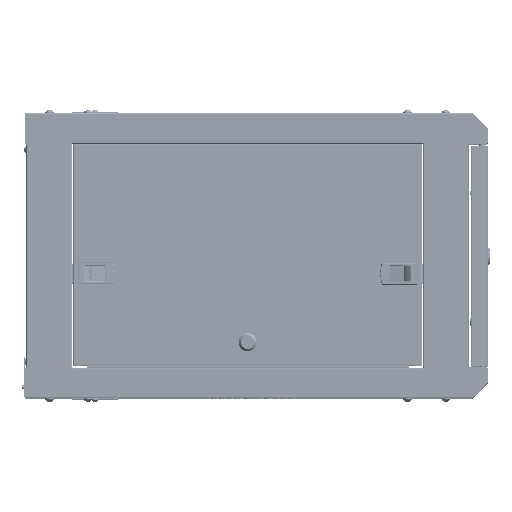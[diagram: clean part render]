
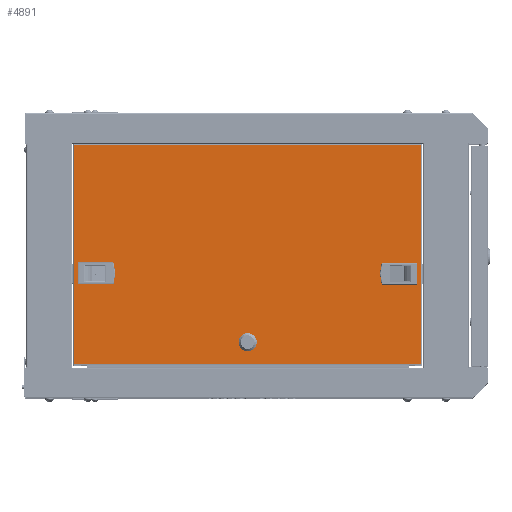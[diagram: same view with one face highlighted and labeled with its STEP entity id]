
A CAD part, top view. The second image highlights one B-rep face of the part: STEP entity #4891.
In plain terms, the highlighted planar face has unit normal (0, 0, 1) as drawn and (0, -1, 0) by its records, which use the part's own axes.
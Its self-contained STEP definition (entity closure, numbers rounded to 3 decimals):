
#4891 = ADVANCED_FACE( 'NONE', ( #12344, #12345, #12346, #12347 ), #12348, .T. );
#12344 = FACE_OUTER_BOUND( '', #26909, .T. );
#12345 = FACE_BOUND( '', #26910, .T. );
#12346 = FACE_BOUND( '', #26911, .T. );
#12347 = FACE_BOUND( '', #26912, .T. );
#12348 = PLANE( '', #26913 );
#26909 = EDGE_LOOP( '', ( #53896, #53897, #53898, #53899 ) );
#26910 = EDGE_LOOP( '', ( #53900, #53901, #53902, #53903 ) );
#26911 = EDGE_LOOP( '', ( #53904, #53905, #53906, #53907 ) );
#26912 = EDGE_LOOP( '', ( #53908, #53909, #53910, #53911 ) );
#26913 = AXIS2_PLACEMENT_3D( '', #53912, #53913, #53914 );
#53896 = ORIENTED_EDGE( '', *, *, #68290, .F. );
#53897 = ORIENTED_EDGE( '', *, *, #68152, .T. );
#53898 = ORIENTED_EDGE( '', *, *, #68208, .T. );
#53899 = ORIENTED_EDGE( '', *, *, #68348, .T. );
#53900 = ORIENTED_EDGE( '', *, *, #68349, .F. );
#53901 = ORIENTED_EDGE( '', *, *, #68182, .F. );
#53902 = ORIENTED_EDGE( '', *, *, #68350, .F. );
#53903 = ORIENTED_EDGE( '', *, *, #68351, .F. );
#53904 = ORIENTED_EDGE( '', *, *, #68299, .F. );
#53905 = ORIENTED_EDGE( '', *, *, #68352, .F. );
#53906 = ORIENTED_EDGE( '', *, *, #68270, .F. );
#53907 = ORIENTED_EDGE( '', *, *, #68343, .F. );
#53908 = ORIENTED_EDGE( '', *, *, #68280, .F. );
#53909 = ORIENTED_EDGE( '', *, *, #68258, .F. );
#53910 = ORIENTED_EDGE( '', *, *, #68317, .F. );
#53911 = ORIENTED_EDGE( '', *, *, #68303, .F. );
#53912 = CARTESIAN_POINT( '', ( -226.5, 0., 143.75 ) );
#53913 = DIRECTION( '', ( 0., -1., 0. ) );
#53914 = DIRECTION( '', ( 0., 0., -1. ) );
#68152 = EDGE_CURVE( 'NONE', #83273, #83274, #83275, .T. );
#68182 = EDGE_CURVE( 'NONE', #83327, #83329, #83330, .T. );
#68208 = EDGE_CURVE( 'NONE', #83274, #83360, #83375, .T. );
#68258 = EDGE_CURVE( 'NONE', #83459, #83461, #83462, .T. );
#68270 = EDGE_CURVE( 'NONE', #83479, #83481, #83482, .T. );
#68280 = EDGE_CURVE( 'NONE', #83461, #83496, #83497, .T. );
#68290 = EDGE_CURVE( 'NONE', #83273, #83512, #83513, .T. );
#68299 = EDGE_CURVE( 'NONE', #83524, #83526, #83527, .T. );
#68303 = EDGE_CURVE( 'NONE', #83496, #83532, #83533, .T. );
#68317 = EDGE_CURVE( 'NONE', #83532, #83459, #83549, .T. );
#68343 = EDGE_CURVE( 'NONE', #83526, #83479, #83584, .T. );
#68348 = EDGE_CURVE( 'NONE', #83360, #83512, #83590, .T. );
#68349 = EDGE_CURVE( 'NONE', #83329, #83591, #83592, .T. );
#68350 = EDGE_CURVE( 'NONE', #83593, #83327, #83594, .T. );
#68351 = EDGE_CURVE( 'NONE', #83591, #83593, #83595, .T. );
#68352 = EDGE_CURVE( 'NONE', #83481, #83524, #83596, .T. );
#83273 = VERTEX_POINT( 'NONE', #109427 );
#83274 = VERTEX_POINT( 'NONE', #109428 );
#83275 = LINE( '', #109429, #109430 );
#83327 = VERTEX_POINT( 'NONE', #109499 );
#83329 = VERTEX_POINT( 'NONE', #109502 );
#83330 = LINE( '', #109503, #109504 );
#83360 = VERTEX_POINT( 'NONE', #109548 );
#83375 = LINE( '', #109567, #109568 );
#83459 = VERTEX_POINT( 'NONE', #109692 );
#83461 = VERTEX_POINT( 'NONE', #109695 );
#83462 = LINE( '', #109696, #109697 );
#83479 = VERTEX_POINT( 'NONE', #109720 );
#83481 = VERTEX_POINT( 'NONE', #109723 );
#83482 = LINE( '', #109724, #109725 );
#83496 = VERTEX_POINT( 'NONE', #109745 );
#83497 = CIRCLE( '', #109746, 9.5 );
#83512 = VERTEX_POINT( 'NONE', #109766 );
#83513 = LINE( '', #109767, #109768 );
#83524 = VERTEX_POINT( 'NONE', #109785 );
#83526 = VERTEX_POINT( 'NONE', #109788 );
#83527 = LINE( '', #109789, #109790 );
#83532 = VERTEX_POINT( 'NONE', #109798 );
#83533 = LINE( '', #109799, #109800 );
#83549 = CIRCLE( '', #109828, 9.5 );
#83584 = LINE( '', #109884, #109885 );
#83590 = LINE( '', #109894, #109895 );
#83591 = VERTEX_POINT( 'NONE', #109896 );
#83592 = LINE( '', #109897, #109898 );
#83593 = VERTEX_POINT( 'NONE', #109899 );
#83594 = LINE( '', #109900, #109901 );
#83595 = LINE( '', #109902, #109903 );
#83596 = LINE( '', #109904, #109905 );
#109427 = CARTESIAN_POINT( '', ( 225.2, 0., 142.45 ) );
#109428 = CARTESIAN_POINT( '', ( -225.2, 0., 142.45 ) );
#109429 = CARTESIAN_POINT( '', ( 225.2, 0., 142.45 ) );
#109430 = VECTOR( '', #128088, 1000. );
#109499 = CARTESIAN_POINT( '', ( 212.7, 0., -37.35 ) );
#109502 = CARTESIAN_POINT( '', ( 212.7, 0., -12.35 ) );
#109503 = CARTESIAN_POINT( '', ( 212.7, 0., -12.35 ) );
#109504 = VECTOR( '', #128140, 1000. );
#109548 = CARTESIAN_POINT( '', ( -225.2, 0., -142.45 ) );
#109567 = CARTESIAN_POINT( '', ( -225.2, 0., 143.75 ) );
#109568 = VECTOR( '', #128180, 1000. );
#109692 = CARTESIAN_POINT( '', ( 8.5, 0., -117.993 ) );
#109695 = CARTESIAN_POINT( '', ( 8.5, 0., -109.507 ) );
#109696 = CARTESIAN_POINT( '', ( 8.5, 0., -109.507 ) );
#109697 = VECTOR( '', #128246, 1000. );
#109720 = CARTESIAN_POINT( '', ( -176.3, 0., -37.35 ) );
#109723 = CARTESIAN_POINT( '', ( -176.3, 0., -12.35 ) );
#109724 = CARTESIAN_POINT( '', ( -176.3, 0., -12.35 ) );
#109725 = VECTOR( '', #128266, 1000. );
#109745 = CARTESIAN_POINT( '', ( -8.5, 0., -109.507 ) );
#109746 = AXIS2_PLACEMENT_3D( '', #128282, #128283, #128284 );
#109766 = CARTESIAN_POINT( '', ( 225.2, 0., -142.45 ) );
#109767 = CARTESIAN_POINT( '', ( 225.2, 0., 143.75 ) );
#109768 = VECTOR( '', #128302, 1000. );
#109785 = CARTESIAN_POINT( '', ( -212.7, 0., -12.35 ) );
#109788 = CARTESIAN_POINT( '', ( -212.7, 0., -37.35 ) );
#109789 = CARTESIAN_POINT( '', ( -212.7, 0., -12.35 ) );
#109790 = VECTOR( '', #128313, 1000. );
#109798 = CARTESIAN_POINT( '', ( -8.5, 0., -117.993 ) );
#109799 = CARTESIAN_POINT( '', ( -8.5, 0., -109.507 ) );
#109800 = VECTOR( '', #128317, 1000. );
#109828 = AXIS2_PLACEMENT_3D( '', #128333, #128334, #128335 );
#109884 = CARTESIAN_POINT( '', ( -212.7, 0., -37.35 ) );
#109885 = VECTOR( '', #128369, 1000. );
#109894 = CARTESIAN_POINT( '', ( -225.2, 0., -142.45 ) );
#109895 = VECTOR( '', #128376, 1000. );
#109896 = CARTESIAN_POINT( '', ( 176.3, 0., -12.35 ) );
#109897 = CARTESIAN_POINT( '', ( 212.7, 0., -12.35 ) );
#109898 = VECTOR( '', #128377, 1000. );
#109899 = CARTESIAN_POINT( '', ( 176.3, 0., -37.35 ) );
#109900 = CARTESIAN_POINT( '', ( 212.7, 0., -37.35 ) );
#109901 = VECTOR( '', #128378, 1000. );
#109902 = CARTESIAN_POINT( '', ( 176.3, 0., -12.35 ) );
#109903 = VECTOR( '', #128379, 1000. );
#109904 = CARTESIAN_POINT( '', ( -212.7, 0., -12.35 ) );
#109905 = VECTOR( '', #128380, 1000. );
#128088 = DIRECTION( '', ( -1., 0., 0. ) );
#128140 = DIRECTION( '', ( 0., 0., 1. ) );
#128180 = DIRECTION( '', ( 0., 0., -1. ) );
#128246 = DIRECTION( '', ( 0., 0., 1. ) );
#128266 = DIRECTION( '', ( 0., 0., 1. ) );
#128282 = CARTESIAN_POINT( '', ( 0., 0., -113.75 ) );
#128283 = DIRECTION( '', ( 0., -1., 0. ) );
#128284 = DIRECTION( '', ( 1., 0., 0. ) );
#128302 = DIRECTION( '', ( 0., 0., -1. ) );
#128313 = DIRECTION( '', ( 0., 0., -1. ) );
#128317 = DIRECTION( '', ( 0., 0., -1. ) );
#128333 = CARTESIAN_POINT( '', ( 0., 0., -113.75 ) );
#128334 = DIRECTION( '', ( 0., -1., 0. ) );
#128335 = DIRECTION( '', ( 1., 0., 0. ) );
#128369 = DIRECTION( '', ( 1., 0., 0. ) );
#128376 = DIRECTION( '', ( 1., 0., 0. ) );
#128377 = DIRECTION( '', ( -1., 0., 0. ) );
#128378 = DIRECTION( '', ( 1., 0., 0. ) );
#128379 = DIRECTION( '', ( 0., 0., -1. ) );
#128380 = DIRECTION( '', ( -1., 0., 0. ) );
